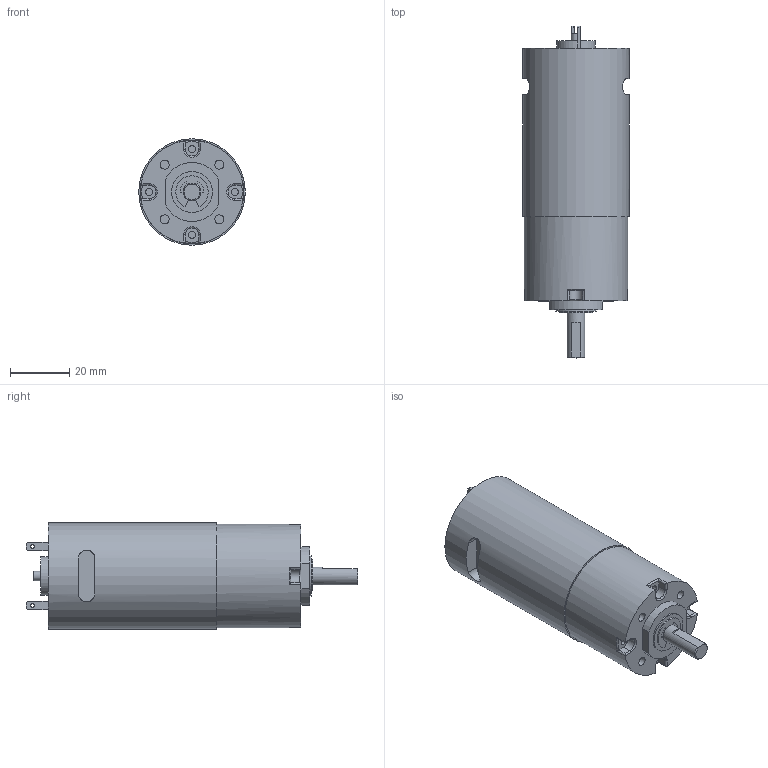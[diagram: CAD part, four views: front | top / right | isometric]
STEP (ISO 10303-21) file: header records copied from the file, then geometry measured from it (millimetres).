
FILE_DESCRIPTION((''),'2;1');
FILE_NAME('E:\2공장-도면\3D\표준형 3D(민규)\1공장 step\k35-3657 SERIES.stp','2015-02-26T17:47:45',('AHN'),(''),'Autodesk Inventor 2012','Autodesk Inventor 2012','');
FILE_SCHEMA(('CONFIG_CONTROL_DESIGN'));
Length unit declared in the file: millimetre
Products named in the file (1): k35-3657
Bounding box: 36 x 112.3 x 36 mm (x, y, z)
Volume: 86036.5 mm3; surface area: 13037.9 mm2
Topology: 1 solids, 1 shells, 121 faces, 291 edges, 189 vertices
Faces by surface type: plane 64, cylinder 48, torus 8, cone 1
Full cylindrical faces by diameter (mm): 1.2 x2, 2.4 x4, 3 x4, 3.1 x1, 6 x1, 13 x1, 13.8 x1, 35 x1, 36 x1
Entity records: 3606 total; most frequent: CARTESIAN_POINT 755, DIRECTION 618, ORIENTED_EDGE 540, EDGE_CURVE 270, AXIS2_PLACEMENT_3D 240, VERTEX_POINT 185, EDGE_LOOP 159, VECTOR 138
